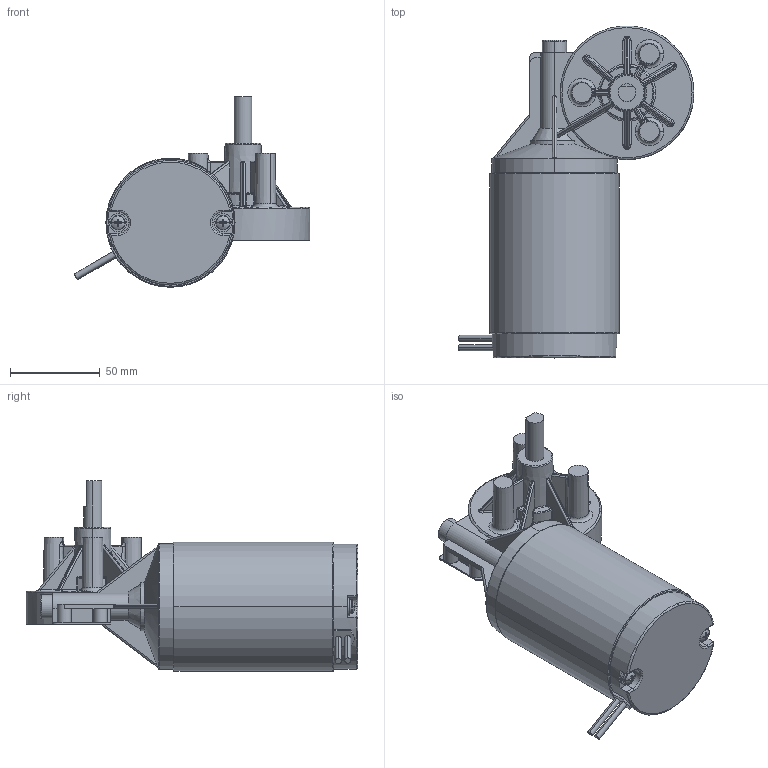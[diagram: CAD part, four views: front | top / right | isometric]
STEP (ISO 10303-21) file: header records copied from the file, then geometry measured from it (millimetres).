
FILE_DESCRIPTION (( 'STEP AP214' ), '1' );
FILE_NAME ('WG6551R.STEP', '2017-06-13T06:11:06', ( 'Sky123.Org' ), ( 'Sky123.Org' ), 'SwSTEP 2.0', 'SolidWorks 2015', '' );
FILE_SCHEMA (( 'AUTOMOTIVE_DESIGN' ));
Length unit declared in the file: millimetre
Products named in the file (5): WG6551R GEAR; pan cross head_am_B18.6.7M - M4 x 0.7 x 25 Type I Cross Recessed PHMS --25N; flat washer narrow_am_B18.22M - Plain washer, 4 mm, narrow; m6551 for gear box; WG6551R
Assembly tree (6 placements, depth 2):
  WG6551R
    m6551 for gear box
    flat washer narrow_am_B18.22M - Plain washer, 4 mm, narrow  x2
    pan cross head_am_B18.6.7M - M4 x 0.7 x 25 Type I Cross Recessed PHMS --25N  x2
    WG6551R GEAR
Bounding box: 131.34 x 184.91 x 106.25 mm (x, y, z)
Volume: 588310.4 mm3; surface area: 71101 mm2
Topology: 6 solids, 6 shells, 453 faces, 1131 edges, 674 vertices
Faces by surface type: cylinder 154, plane 144, bspline 72, torus 63, cone 16, sphere 4
Entity records: 16104 total; most frequent: CARTESIAN_POINT 6094, ORIENTED_EDGE 2090, DIRECTION 1875, EDGE_CURVE 1045, AXIS2_PLACEMENT_3D 751, VERTEX_POINT 636, EDGE_LOOP 437, ADVANCED_FACE 424
